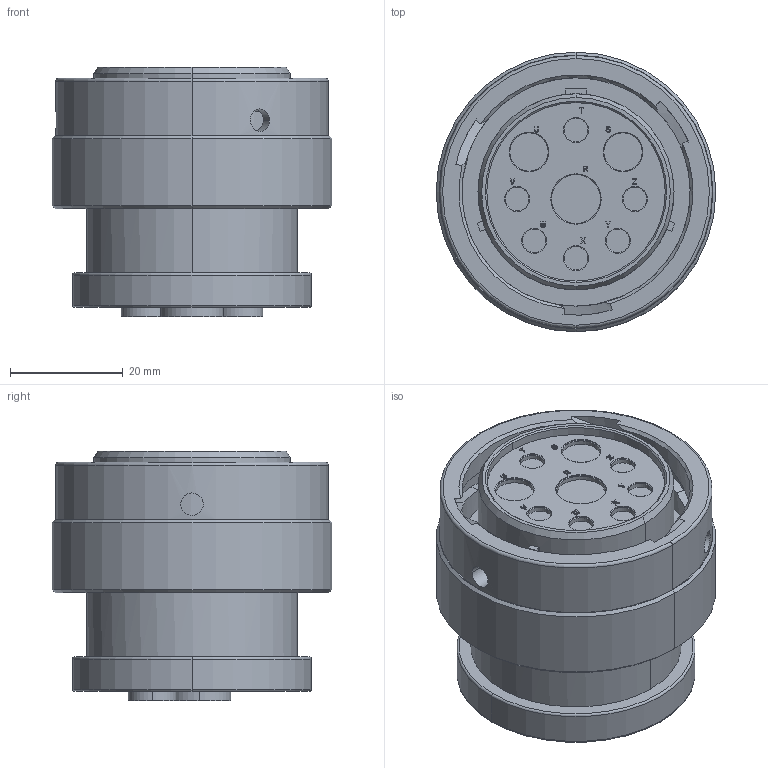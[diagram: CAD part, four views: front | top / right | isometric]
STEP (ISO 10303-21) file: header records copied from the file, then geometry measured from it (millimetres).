
FILE_DESCRIPTION((''),'2;1');
FILE_NAME('C-HDP26-24-9SN-L017','2013-06-27T',('workeradm'),('Tyco Electronics Ltd.'),'PRO/ENGINEER BY PARAMETRIC TECHNOLOGY CORPORATION, 2011490','PRO/ENGINEER BY PARAMETRIC TECHNOLOGY CORPORATION, 2011490','');
FILE_SCHEMA(('AUTOMOTIVE_DESIGN { 1 0 10303 214 1 1 1 1 }'));
Length unit declared in the file: millimetre
Products named in the file (1): C-HDP26-24-9SN-L017
Bounding box: 49.53 x 49.53 x 44.25 mm (x, y, z)
Volume: 58024.2 mm3; surface area: 15630.4 mm2
Topology: 1 solids, 1 shells, 453 faces, 1127 edges, 719 vertices
Faces by surface type: plane 229, cylinder 120, cone 35, bspline 35, torus 34
Entity records: 15682 total; most frequent: CARTESIAN_POINT 4610, ORIENTED_EDGE 2254, DIRECTION 2161, EDGE_CURVE 1127, AXIS2_PLACEMENT_3D 725, VERTEX_POINT 719, VECTOR 711, LINE 711
